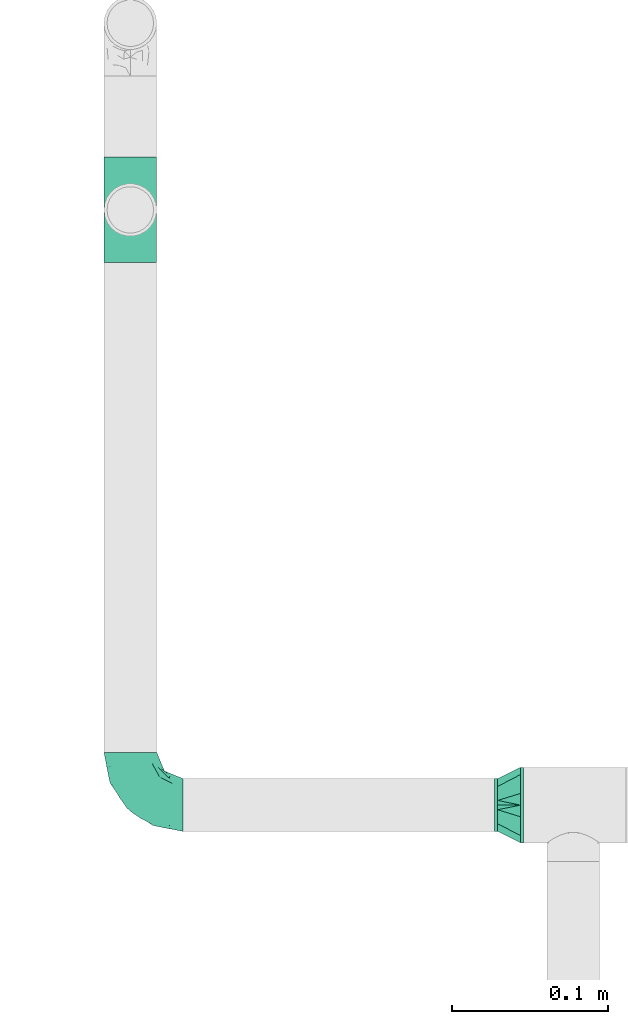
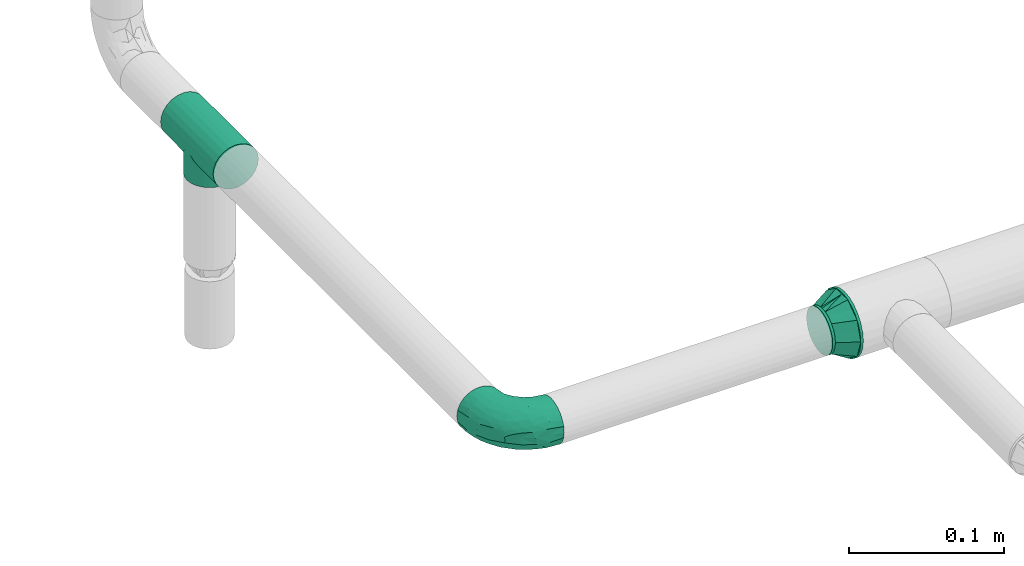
# One storey, part 19 of 51: 3 flow fittings.
"""IFC2X3 building model written with IfcOpenShell, lengths in millimetres."""

from ifc_helpers import new_model, entity, si_unit, converted_unit, derived_unit, direction, frame, origin_with_axes, place, context, subcontext, project, spatial, open_shell, surface_model, source, transform, mapped, type_object, element, save


model = new_model("IFC2X3")

# Units and contexts
model_context = context("Model", 3, precision=0.01, world=frame((0.0, 4.29681676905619e-09, 0.0)), true_north=direction((4.01073788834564e-13, 1.0)))
plan_context = context("Plan", 3, precision=0.01, world=frame((0.0, 4.29681676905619e-09, 0.0)), true_north=direction((4.01073788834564e-13, 1.0)))
body_context = subcontext(model_context, "Body", "Model", "MODEL_VIEW")
ifc_project = project(units=[converted_unit("PLANEANGLEUNIT", "DEGREE", entity("IfcPositiveLengthMeasure", 0.0174532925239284), si_unit("PLANEANGLEUNIT", "RADIAN"), dimensions=[0, 0, 0, 0, 0, 0, 0]), si_unit("AREAUNIT", "SQUARE_METRE"), si_unit("LENGTHUNIT", "METRE", prefix="MILLI"), si_unit("MASSUNIT", "GRAM", prefix="KILO"), si_unit("POWERUNIT", "WATT"), si_unit("PRESSUREUNIT", "PASCAL"), si_unit("FORCEUNIT", "NEWTON", prefix="KILO"), si_unit("ELECTRICVOLTAGEUNIT", "VOLT"), si_unit("ELECTRICCURRENTUNIT", "AMPERE"), si_unit("THERMODYNAMICTEMPERATUREUNIT", "DEGREE_CELSIUS"), si_unit("TIMEUNIT", "SECOND"), si_unit("VOLUMEUNIT", "CUBIC_METRE"), derived_unit("LINEARVELOCITYUNIT", [(si_unit("LENGTHUNIT", "METRE"), 1), (si_unit("TIMEUNIT", "SECOND"), -1)]), derived_unit("VOLUMETRICFLOWRATEUNIT", [(si_unit("VOLUMEUNIT", "CUBIC_METRE"), 1), (si_unit("TIMEUNIT", "SECOND"), -1)]), derived_unit("THERMALTRANSMITTANCEUNIT", [(si_unit("POWERUNIT", "WATT"), 1), (si_unit("THERMODYNAMICTEMPERATUREUNIT", "KELVIN"), -1), (si_unit("AREAUNIT", "SQUARE_METRE"), -1)]), derived_unit("SOUNDPRESSUREUNIT", [(si_unit("PRESSUREUNIT", "PASCAL"), 1)])], contexts=[model_context, plan_context])

# Site, building, storey
site_placement = place(None, frame((0.0, -4.29681676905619e-09, 0.0), z_axis=(0.0, 0.0, 1.0), x_axis=(1.0, 0.0, 0.0)))
site = spatial("IfcSite", under=ifc_project, at=site_placement, Name="ENGM", CompositionType="ELEMENT")
building_placement = place(site_placement, frame((0.0, 4.29681676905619e-09, 0.0), z_axis=(0.0, 0.0, 1.0), x_axis=(1.0, 0.0, 0.0)))
building = spatial("IfcBuilding", under=site, at=building_placement, Name="TH", CompositionType="ELEMENT")
storey_placement = place(building_placement, frame((0.0, 0.0, 210200.0), z_axis=(0.0, 0.0, 1.0), x_axis=(1.0, 0.0, 0.0)))
storey = spatial("IfcBuildingStorey", under=building, at=storey_placement, Name="Nivå F - 0,7 m", CompositionType="ELEMENT", Elevation=210200.0)

# Flow fittings
pipe_fitting_type_1 = type_object("IfcPipeFittingType", Name="magi_pipe_fe_elbow_short_001", PredefinedType="BEND")
shared_shape_1 = source(origin_with_axes(), body_context, "Body", "SurfaceModel", [
    surface_model("IfcShellBasedSurfaceModel", [(-33.8, 8.45, -14.63583), (-33.8, 4.37404, -16.32415), (-33.8, 11.9501, -11.9501), (-33.8, -11.9501, -11.9501), (-33.8, -14.63583, -8.45), (-33.8, -8.45, -14.63583), (-33.8, 0.0, -16.9), (-33.8, -4.37404, -16.32415), (-33.8, -4.37404, 16.32415), (-33.8, 0.0, 16.9), (-33.8, -8.45, 14.63583), (-33.8, 16.32415, -4.37404), (-33.8, 14.63583, -8.45), (-33.8, -16.32415, -4.37404), (-33.8, -16.9, 0.0), (-33.8, -16.32415, 4.37404), (-33.8, 11.9501, 11.9501), (-33.8, 14.63583, 8.45), (-33.8, 16.32415, 4.37404), (-33.8, 4.37404, 16.32415), (-33.8, 8.45, 14.63583), (-33.8, -14.63583, 8.45), (-33.8, -11.9501, 11.9501), (-33.8, 16.9, 0.0), (-11.9501, 33.8, -11.9501), (0.0, 33.8, -16.9), (-4.37404, 33.8, -16.32415), (-8.45, 33.8, -14.63583), (-14.63583, 33.8, -8.45), (-16.32415, 33.8, -4.37404), (14.63583, 33.8, -8.45), (8.45, 33.8, 14.63583), (16.32415, 33.8, -4.37404), (8.45, 33.8, -14.63583), (11.9501, 33.8, -11.9501), (4.37404, 33.8, -16.32415), (16.32415, 33.8, 4.37404), (16.9, 33.8, 0.0), (-11.9501, 33.8, 11.9501), (-16.32415, 33.8, 4.37404), (-14.63583, 33.8, 8.45), (-8.45, 33.8, 14.63583), (-4.37404, 33.8, 16.32415), (11.9501, 33.8, 11.9501), (14.63583, 33.8, 8.45), (0.0, 33.8, 16.9), (4.37404, 33.8, 16.32415), (-16.9, 33.8, 0.0), (-24.79389, -13.12945, 9.48721), (-22.19287, -9.75018, 12.59315), (-24.09897, -14.97035, 0.0), (-14.93934, -10.76256, 8.5297), (-22.46095, -14.75051, 5.27077), (14.75051, 22.46094, 5.27077), (11.9251, 13.23888, 4.33236), (13.04069, 14.39795, 0.0), (7.71387, 13.68847, 11.55891), (9.75018, 22.19287, 12.59315), (4.10169, 13.0571, 14.04018), (-24.84007, -6.39063, 15.2048), (-25.81779, -2.23879, 16.61097), (-23.66549, 2.59054, 16.87119), (-26.50418, 14.06512, 11.08152), (-24.21253, 17.66365, 7.72657), (-29.58514, 15.86957, 7.00283), (-6.17382, -7.5455, 0.0), (-13.23888, -11.9251, 4.33236), (-14.39795, -13.04069, 0.0), (-17.81434, 18.87373, 11.97104), (-6.30846, 29.15138, 15.82987), (-2.31622, 25.28002, 16.85849), (-29.23923, 10.23435, 13.77053), (-1.45439, -2.85688, 7.61475), (-0.28326, 0.34872, 10.09509), (-5.74484, -4.04709, 10.4122), (-4.41137, 11.31918, 16.59407), (-8.39727, 3.10034, 15.7812), (-1.72649, 9.1306, 15.53089), (-17.39909, 24.75344, 7.64977), (-26.19233, 20.0512, 0.0), (-28.14518, 17.29657, 4.25857), (-26.05147, 6.6281, 15.96447), (-5.87354, 16.61944, 16.86968), (-12.51807, 12.51807, 16.48937), (-10.06312, 7.38516, 16.81295), (-3.01882, 3.01882, 13.81718), (-13.0571, -4.10169, 14.04018), (-16.82553, -0.15166, 16.38038), (10.76256, 14.93934, 8.5297), (13.12945, 24.79389, 9.48721), (6.39063, 24.84007, 15.2048), (2.23879, 25.81779, 16.61097), (-13.68847, -7.71387, 11.55891), (14.97035, 24.09897, 0.0), (-7.30894, 22.89991, 16.09489), (-10.67958, 26.17414, 14.008), (-12.78295, 18.26924, 15.06066), (-13.88562, 22.45231, 12.93244), (-18.04944, 15.16501, 14.04434), (-23.11658, 20.08178, 4.02986), (-21.84989, 21.84989, 0.0), (-18.55817, 25.48277, 3.93065), (-13.95142, 26.94732, 11.03289), (-18.57098, 7.23906, 16.59756), (-16.58335, 4.14122, 16.89279), (-17.96666, 11.46709, 15.63151), (-9.84453, 17.54304, 16.18938), (0.15166, 16.82553, 16.38038), (-23.27207, 11.47201, 14.23154), (3.84842, 5.86994, 10.70473), (-8.0212, -7.54413, 7.93275), (1.00345, -2.19508, 4.57414), (5.13203, 3.01004, 5.90201), (5.24161, 1.7543, 2.53265), (8.70457, 7.04947, 3.99182), (-20.0512, 26.19233, 0.0), (8.4852, 8.76699, 7.09296), (-4.55488, -6.72064, 4.90681), (2.05031, -2.05031, 0.0), (7.5455, 6.17382, 0.0), (-26.75399, 2.1369, -16.845), (-14.61995, 24.73803, -11.27736), (-28.45274, -13.45335, -9.81895), (-26.00469, 6.63555, -15.96645), (-23.06726, 20.04573, -4.26202), (-13.80647, -4.26506, -14.17873), (-14.67501, -0.21081, -16.07388), (-6.7902, -0.2828, -13.8478), (-24.53586, 11.08096, -14.13417), (-26.72048, 14.00837, -11.05776), (10.0967, 24.44989, -12.75976), (5.83237, 21.40218, -15.03047), (6.66249, 28.54238, -15.38093), (-20.38182, 15.48705, -12.74596), (12.53268, 21.23441, -9.15363), (12.54494, 15.67504, -5.54878), (9.7522, 12.89279, -8.66343), (-15.65186, 19.64213, -13.01327), (-12.03528, 20.66498, -14.67665), (-15.61907, 15.61906, -14.83879), (-25.56551, -15.26206, 0.0), (-24.65452, -15.12934, -5.50955), (13.45335, 28.45274, -9.81895), (15.12934, 24.65452, -5.50955), (-7.35442, -8.31014, -5.65563), (-15.67504, -12.54494, -5.54878), (-24.44989, -10.0967, -12.75976), (0.16522, 0.41303, -9.71728), (-5.70658, -5.33066, -8.89288), (-5.13869, -2.37198, -11.53565), (-21.23441, -12.53268, -9.15363), (0.71146, 7.93863, -14.09382), (0.21081, 14.67501, -16.07388), (3.49291, 14.42772, -14.76381), (-24.89911, -2.13088, -16.591), (-28.54238, -6.66249, -15.38093), (-18.44386, -7.71663, -13.26957), (2.13088, 24.89911, -16.591), (-28.64342, 17.44413, -2.89318), (1.70017, -1.28722, -5.09504), (-16.57067, 26.81947, -7.36596), (-17.69055, 27.4263, -3.76405), (-12.89279, -9.7522, -8.66343), (-5.96611, 5.96611, -15.95814), (-20.53709, 20.09345, -8.28985), (-2.1369, 26.75399, -16.845), (-6.89872, 24.58781, -16.02578), (-10.60739, 26.53157, -13.98044), (-21.40218, -5.83237, -15.03047), (2.93192, 5.89627, -11.55917), (6.89393, 12.61842, -11.82233), (5.58056, 5.95325, -8.79455), (-3.99512, 18.61798, -16.89635), (8.31014, 7.35442, -5.65563), (-9.1383, 9.86148, -16.89041), (-9.99983, 16.02119, -16.39699), (-16.68576, 9.78031, -16.34199), (-27.01915, 16.61158, -7.12979), (15.26206, 25.56551, 0.0), (-18.61798, 3.99512, -16.89635), (-19.37495, 27.82495, 0.0), (-12.61842, -6.89393, -11.82233), (-18.84705, 19.14018, -10.96545)], [open_shell([[[0, 1, 2]], [[3, 4, 5]], [[6, 7, 5]], [[8, 9, 10]], [[1, 6, 2]], [[11, 12, 2]], [[4, 2, 6]], [[2, 13, 10]], [[5, 4, 6]], [[2, 4, 13]], [[14, 15, 13]], [[11, 2, 16]], [[11, 17, 18]], [[11, 16, 17]], [[19, 20, 16]], [[16, 2, 10]], [[19, 16, 10]], [[21, 22, 15]], [[22, 13, 15]], [[22, 10, 13]], [[10, 9, 19]], [[11, 18, 23]], [[24, 25, 26]], [[24, 26, 27]], [[24, 28, 29]], [[25, 24, 30]], [[31, 32, 24]], [[33, 30, 34]], [[33, 35, 25]], [[25, 30, 33]], [[32, 30, 24]], [[32, 36, 37]], [[38, 24, 29]], [[39, 40, 29]], [[40, 38, 29]], [[38, 41, 42]], [[38, 31, 24]], [[31, 38, 42]], [[36, 43, 44]], [[36, 32, 43]], [[31, 45, 46]], [[32, 31, 43]], [[42, 45, 31]], [[39, 29, 47]], [[22, 48, 49]], [[15, 14, 50]], [[51, 48, 52]], [[53, 54, 55]], [[48, 22, 21]], [[15, 52, 21]], [[56, 57, 58]], [[49, 10, 22]], [[49, 59, 10]], [[9, 60, 61]], [[62, 63, 64]], [[65, 66, 67]], [[57, 43, 31]], [[62, 68, 63]], [[42, 69, 70]], [[20, 71, 16]], [[8, 60, 9]], [[72, 73, 74]], [[75, 76, 77]], [[16, 62, 17]], [[40, 39, 78]], [[79, 23, 80]], [[64, 18, 17]], [[9, 61, 19]], [[19, 81, 20]], [[82, 83, 84]], [[74, 85, 86]], [[59, 86, 87]], [[88, 89, 57]], [[90, 31, 46]], [[44, 53, 36]], [[46, 45, 91]], [[54, 53, 88]], [[44, 89, 53]], [[92, 86, 49]], [[89, 44, 43]], [[10, 59, 8]], [[53, 55, 93]], [[93, 36, 53]], [[66, 52, 67]], [[94, 82, 70]], [[95, 96, 94]], [[97, 98, 96]], [[79, 99, 100]], [[41, 38, 95]], [[101, 100, 99]], [[68, 78, 63]], [[42, 41, 69]], [[23, 18, 80]], [[95, 94, 69]], [[78, 101, 99]], [[38, 102, 95]], [[70, 45, 42]], [[97, 95, 102]], [[15, 50, 52]], [[90, 57, 31]], [[57, 90, 58]], [[81, 19, 61]], [[103, 104, 84]], [[105, 81, 103]], [[38, 40, 102]], [[106, 96, 83]], [[94, 106, 82]], [[91, 70, 107]], [[71, 62, 16]], [[62, 108, 98]], [[86, 59, 49]], [[67, 52, 50]], [[60, 59, 87]], [[92, 49, 51]], [[86, 85, 76]], [[91, 90, 46]], [[37, 36, 93]], [[107, 77, 58]], [[107, 58, 90]], [[58, 85, 109]], [[110, 74, 92]], [[72, 74, 110]], [[66, 51, 52]], [[72, 111, 112]], [[113, 114, 112]], [[56, 88, 57]], [[52, 48, 21]], [[49, 48, 51]], [[57, 89, 43]], [[53, 89, 88]], [[103, 81, 61]], [[71, 81, 108]], [[18, 64, 80]], [[63, 78, 99]], [[47, 115, 101]], [[101, 115, 100]], [[40, 78, 102]], [[68, 102, 78]], [[97, 96, 95]], [[105, 98, 108]], [[103, 84, 83]], [[107, 70, 82]], [[76, 84, 87]], [[82, 84, 75]], [[70, 91, 45]], [[90, 91, 107]], [[59, 60, 8]], [[61, 60, 87]], [[73, 85, 74]], [[109, 112, 116]], [[103, 61, 104]], [[105, 103, 83]], [[96, 105, 83]], [[81, 105, 108]], [[96, 98, 105]], [[62, 98, 68]], [[61, 87, 104]], [[87, 84, 104]], [[86, 76, 87]], [[77, 76, 85]], [[58, 77, 85]], [[75, 77, 107]], [[82, 75, 107]], [[76, 75, 84]], [[81, 71, 20]], [[62, 71, 108]], [[95, 69, 41]], [[70, 69, 94]], [[62, 64, 17]], [[80, 63, 99]], [[63, 80, 64]], [[80, 99, 79]], [[66, 65, 117]], [[110, 66, 117]], [[112, 114, 116]], [[118, 117, 65]], [[110, 92, 51]], [[112, 111, 113]], [[119, 55, 54]], [[74, 86, 92]], [[58, 109, 56]], [[116, 56, 109]], [[66, 110, 51]], [[72, 110, 117]], [[111, 72, 117]], [[73, 112, 109]], [[117, 118, 111]], [[113, 111, 118]], [[118, 119, 113]], [[114, 119, 54]], [[119, 114, 113]], [[116, 54, 88]], [[54, 116, 114]], [[116, 88, 56]], [[112, 73, 72]], [[85, 73, 109]], [[78, 39, 101]], [[47, 101, 39]], [[102, 68, 97]], [[97, 68, 98]], [[82, 106, 83]], [[94, 96, 106]], [[1, 120, 6]], [[28, 24, 121]], [[3, 122, 4]], [[0, 123, 1]], [[100, 124, 79]], [[125, 126, 127]], [[128, 2, 129]], [[130, 131, 132]], [[128, 129, 133]], [[134, 135, 136]], [[137, 138, 139]], [[128, 0, 2]], [[67, 140, 141]], [[134, 142, 143]], [[141, 13, 4]], [[144, 65, 145]], [[146, 3, 5]], [[147, 148, 149]], [[145, 141, 150]], [[151, 152, 153]], [[154, 7, 6]], [[5, 155, 146]], [[150, 146, 156]], [[155, 5, 7]], [[143, 135, 134]], [[35, 157, 25]], [[23, 79, 158]], [[148, 159, 144]], [[160, 161, 29]], [[145, 162, 144]], [[163, 152, 151]], [[29, 28, 160]], [[121, 164, 160]], [[33, 34, 130]], [[25, 165, 26]], [[26, 165, 166]], [[142, 34, 30]], [[24, 27, 167]], [[124, 161, 164]], [[157, 35, 132]], [[155, 154, 168]], [[123, 0, 128]], [[169, 170, 171]], [[172, 157, 152]], [[26, 166, 27]], [[132, 35, 33]], [[142, 130, 34]], [[168, 154, 126]], [[136, 135, 173]], [[133, 137, 139]], [[2, 12, 129]], [[170, 131, 130]], [[30, 32, 143]], [[172, 174, 175]], [[176, 123, 128]], [[158, 177, 11]], [[135, 55, 119]], [[167, 27, 166]], [[175, 166, 172]], [[137, 167, 138]], [[122, 141, 4]], [[140, 14, 13]], [[32, 37, 178]], [[170, 130, 134]], [[152, 157, 131]], [[165, 157, 172]], [[153, 170, 151]], [[152, 163, 174]], [[168, 125, 156]], [[122, 146, 150]], [[120, 154, 6]], [[179, 174, 126]], [[179, 126, 154]], [[126, 163, 127]], [[162, 145, 150]], [[140, 13, 141]], [[32, 178, 143]], [[55, 143, 178]], [[177, 129, 12]], [[128, 133, 139]], [[176, 128, 139]], [[120, 123, 179]], [[121, 160, 28]], [[161, 100, 180]], [[166, 175, 138]], [[121, 24, 167]], [[161, 47, 29]], [[79, 124, 158]], [[124, 164, 177]], [[161, 124, 100]], [[136, 171, 170]], [[127, 163, 151]], [[147, 171, 159]], [[148, 144, 162]], [[127, 151, 169]], [[127, 181, 125]], [[129, 177, 164]], [[12, 11, 177]], [[159, 65, 144]], [[67, 141, 145]], [[143, 55, 135]], [[135, 119, 173]], [[123, 120, 1]], [[154, 120, 179]], [[157, 165, 25]], [[166, 165, 172]], [[172, 152, 174]], [[176, 139, 175]], [[126, 174, 163]], [[176, 174, 179]], [[174, 176, 175]], [[123, 176, 179]], [[150, 181, 162]], [[127, 149, 181]], [[181, 148, 162]], [[159, 148, 147]], [[171, 136, 173]], [[170, 134, 136]], [[159, 171, 173]], [[171, 147, 169]], [[169, 147, 149]], [[151, 170, 169]], [[164, 182, 129]], [[182, 121, 137]], [[181, 149, 148]], [[169, 149, 127]], [[182, 137, 133]], [[167, 137, 121]], [[166, 138, 167]], [[175, 139, 138]], [[129, 182, 133]], [[121, 182, 164]], [[161, 160, 164]], [[47, 161, 180]], [[177, 158, 124]], [[23, 158, 11]], [[130, 132, 33]], [[157, 132, 131]], [[143, 142, 30]], [[130, 142, 134]], [[154, 155, 7]], [[146, 155, 168]], [[146, 122, 3]], [[141, 122, 150]], [[152, 131, 153]], [[159, 119, 118]], [[67, 145, 65]], [[170, 153, 131]], [[119, 159, 173]], [[159, 118, 65]], [[156, 125, 181]], [[126, 125, 168]], [[150, 156, 181]], [[168, 156, 146]]])]),
])
flow_fitting_1_placement = place(storey_placement, frame((900216.02472, 481023.05237, 2700.0), z_axis=(0.0, 0.0, 1.0), x_axis=(0.0, -1.0, 0.0)))
element("IfcFlowFitting", 1, at=flow_fitting_1_placement, inside=storey, type_object=pipe_fitting_type_1, Name="magi_pipe_fe_elbow_short_001", context=body_context, shape_type="MappedRepresentation", body=[
    mapped(shared_shape_1, transform((0.0, 0.0, 0.0), scale=1.0)),
])
pipe_fitting_type_2 = type_object("IfcPipeFittingType", Name="magi_pipe_fe_reducer_centric_short_NOR", PredefinedType="TRANSITION")
shared_shape_2 = source(origin_with_axes(), body_context, "Body", "SurfaceModel", [
    surface_model("IfcShellBasedSurfaceModel", [(16.6, 4.37404, -16.32415), (16.6, 8.45, -14.63583), (16.6, 11.9501, -11.9501), (16.6, 0.0, -16.9), (16.6, 16.32415, -4.37404), (16.6, 16.32415, 4.37404), (16.6, 14.63583, -8.45), (16.6, -8.45, 14.63583), (16.6, -8.45, -14.63583), (16.6, -4.37404, -16.32415), (16.6, -11.9501, -11.9501), (16.6, -16.32415, -4.37404), (16.6, -14.63583, -8.45), (16.6, -16.32415, 4.37404), (16.6, 16.9, 0.0), (16.6, 14.63583, 8.45), (16.6, 11.9501, 11.9501), (16.6, 4.37404, 16.32415), (16.6, 8.45, 14.63583), (16.6, 0.0, 16.9), (16.6, -14.63583, 8.45), (16.6, -16.9, 0.0), (16.6, -11.9501, 11.9501), (16.6, -4.37404, 16.32415), (14.6, 11.9501, 11.9501), (14.6, 0.0, 16.9), (14.6, 4.37404, 16.32415), (14.6, 8.45, 14.63583), (14.6, 14.63583, 8.45), (14.6, 16.32415, 4.37404), (14.6, -16.32415, 4.37404), (14.6, -8.45, -14.63583), (14.6, -8.45, 14.63583), (14.6, -14.63583, 8.45), (14.6, -11.9501, 11.9501), (14.6, -4.37404, 16.32415), (14.6, -16.32415, -4.37404), (14.6, -16.9, 0.0), (14.6, 16.32415, -4.37404), (14.6, 11.9501, -11.9501), (14.6, 14.63583, -8.45), (14.6, 8.45, -14.63583), (14.6, 4.37404, -16.32415), (14.6, 0.0, -16.9), (14.6, -11.9501, -11.9501), (14.6, -14.63583, -8.45), (14.6, -4.37404, -16.32415), (14.6, 16.9, 0.0), (-2.0, 0.0, 24.2), (-2.0, 6.26342, 23.37541), (-2.0, 12.1, 20.95781), (-2.0, 17.11198, 17.11198), (-2.0, 24.2, 0.0), (-2.0, 20.95781, 12.1), (-2.0, -23.37541, 6.26342), (-2.0, -17.11198, -17.11198), (-2.0, -6.26342, 23.37541), (-2.0, -17.11198, 17.11198), (-2.0, -12.1, 20.95781), (-2.0, -20.95781, 12.1), (-2.0, -24.2, 0.0), (-2.0, 23.37541, 6.26342), (-2.0, 23.37541, -6.26342), (-2.0, 6.26342, -23.37541), (-2.0, 17.11198, -17.11198), (-2.0, 20.95781, -12.1), (-2.0, 12.1, -20.95781), (-2.0, -23.37541, -6.26342), (-2.0, -20.95781, -12.1), (-2.0, -6.26342, -23.37541), (-2.0, -12.1, -20.95781), (-2.0, 0.0, -24.2), (0.0, 24.2, 0.0), (0.0, 6.26342, -23.37541), (0.0, 12.1, -20.95781), (0.0, 23.37541, -6.26342), (0.0, 17.11198, -17.11198), (0.0, 20.95781, -12.1), (0.0, -24.2, 0.0), (0.0, -12.1, -20.95781), (0.0, -6.26342, -23.37541), (0.0, 0.0, -24.2), (0.0, -17.11198, -17.11198), (0.0, -23.37541, -6.26342), (0.0, -20.95781, -12.1), (0.0, 20.95781, 12.1), (0.0, 17.11198, 17.11198), (0.0, 12.1, 20.95781), (0.0, 6.26342, 23.37541), (0.0, 0.0, 24.2), (0.0, -23.37541, 6.26342), (0.0, -17.11198, 17.11198), (0.0, -20.95781, 12.1), (0.0, -6.26342, 23.37541), (0.0, -12.1, 20.95781), (0.0, 23.37541, 6.26342), (0.0, 7.47821, 23.01557), (0.0, 19.57821, 14.2244), (0.0, -7.47821, 23.01557), (0.0, -19.57821, 14.2244), (0.0, 7.47821, -23.01557), (0.0, 19.57821, -14.2244), (0.0, -7.47821, -23.01557), (0.0, -19.57821, -14.2244), (14.6, -13.18758, -8.96258), (14.6, 14.42505, -5.97505), (0.0, 21.8891, -7.1122), (0.0, 13.52821, -18.61999), (0.0, 16.55321, -16.42219), (14.6, -14.42505, -5.97505), (0.0, -21.8891, -7.1122), (0.0, -20.73366, -10.6683), (14.6, 5.97505, -14.42505), (0.0, 0.0, -23.01557), (14.6, -2.98753, -15.66253), (14.6, 2.98753, -15.66253), (14.6, 8.96258, -13.18758), (14.6, 15.66253, -2.98753), (14.6, -15.66253, -2.98753), (0.0, -13.52821, -18.61999), (14.6, -5.97505, -14.42505), (14.6, -8.96258, -13.18758), (14.6, 13.18758, -8.96258), (14.6, 13.18758, 8.96258), (14.6, -14.42505, 5.97505), (0.0, -21.8891, 7.1122), (0.0, -13.52821, 18.61999), (0.0, -16.55321, 16.42219), (14.6, 14.42505, 5.97505), (0.0, 21.8891, 7.1122), (0.0, 20.73366, 10.6683), (14.6, -5.97505, 14.42505), (0.0, 0.0, 23.01557), (14.6, 2.98753, 15.66253), (14.6, -2.98753, 15.66253), (14.6, -8.96258, 13.18758), (14.6, -15.66253, 2.98753), (14.6, 15.66253, 2.98753), (0.0, 13.52821, 18.61999), (14.6, 5.97505, 14.42505), (14.6, 8.96258, 13.18758), (14.6, -13.18758, 8.96258)], [open_shell([[[0, 1, 2]], [[3, 0, 2]], [[2, 4, 5]], [[4, 2, 6]], [[2, 7, 8]], [[3, 8, 9]], [[3, 2, 8]], [[10, 11, 12]], [[11, 10, 8]], [[8, 13, 11]], [[5, 4, 14]], [[5, 15, 16]], [[5, 16, 17]], [[5, 17, 7]], [[17, 16, 18]], [[7, 17, 19]], [[13, 7, 20]], [[21, 11, 13]], [[20, 7, 22]], [[7, 13, 8]], [[19, 23, 7]], [[2, 5, 7]], [[24, 25, 26]], [[24, 26, 27]], [[24, 28, 29]], [[24, 29, 25]], [[30, 25, 31]], [[32, 33, 34]], [[33, 32, 35]], [[25, 33, 35]], [[25, 30, 33]], [[30, 36, 37]], [[31, 25, 29]], [[29, 38, 39]], [[39, 38, 40]], [[39, 41, 42]], [[31, 29, 39]], [[42, 43, 39]], [[36, 44, 45]], [[44, 36, 31]], [[31, 43, 46]], [[36, 30, 31]], [[39, 43, 31]], [[38, 29, 47]], [[36, 11, 37]], [[45, 12, 36]], [[8, 44, 31]], [[45, 44, 10]], [[9, 31, 46]], [[36, 12, 11]], [[11, 21, 37]], [[9, 8, 31]], [[10, 44, 8]], [[10, 12, 45]], [[3, 9, 46]], [[46, 43, 3]], [[42, 0, 43]], [[41, 1, 42]], [[6, 39, 40]], [[41, 39, 2]], [[4, 40, 38]], [[41, 2, 1]], [[1, 0, 42]], [[14, 4, 38]], [[6, 40, 4]], [[6, 2, 39]], [[47, 14, 38]], [[43, 0, 3]], [[29, 5, 47]], [[28, 15, 29]], [[18, 24, 27]], [[28, 24, 16]], [[17, 27, 26]], [[29, 15, 5]], [[5, 14, 47]], [[17, 18, 27]], [[16, 24, 18]], [[16, 15, 28]], [[19, 17, 26]], [[26, 25, 19]], [[35, 23, 25]], [[32, 7, 35]], [[20, 34, 33]], [[32, 34, 22]], [[13, 33, 30]], [[32, 22, 7]], [[7, 23, 35]], [[21, 13, 30]], [[20, 33, 13]], [[20, 22, 34]], [[37, 21, 30]], [[25, 23, 19]], [[48, 49, 50]], [[48, 50, 51]], [[52, 51, 53]], [[54, 48, 55]], [[48, 51, 55]], [[56, 57, 58]], [[56, 48, 57]], [[57, 54, 59]], [[48, 54, 57]], [[54, 55, 60]], [[52, 53, 61]], [[51, 62, 63]], [[64, 62, 65]], [[66, 63, 62]], [[66, 62, 64]], [[63, 55, 51]], [[67, 55, 68]], [[60, 55, 67]], [[63, 69, 70]], [[70, 55, 63]], [[69, 63, 71]], [[62, 51, 52]], [[72, 73, 74]], [[75, 74, 76]], [[75, 72, 74]], [[75, 76, 77]], [[73, 78, 79]], [[73, 80, 81]], [[73, 79, 80]], [[82, 83, 84]], [[82, 79, 78]], [[82, 78, 83]], [[73, 72, 85]], [[85, 86, 73]], [[73, 86, 78]], [[87, 88, 89]], [[87, 89, 86]], [[78, 86, 89]], [[90, 91, 92]], [[93, 90, 78]], [[91, 93, 94]], [[93, 91, 90]], [[78, 89, 93]], [[72, 95, 85]], [[67, 83, 60]], [[68, 84, 67]], [[79, 55, 70]], [[68, 55, 82]], [[80, 70, 69]], [[67, 84, 83]], [[83, 78, 60]], [[80, 79, 70]], [[82, 55, 79]], [[82, 84, 68]], [[81, 80, 69]], [[69, 71, 81]], [[63, 73, 71]], [[66, 74, 63]], [[77, 64, 65]], [[66, 64, 76]], [[75, 65, 62]], [[66, 76, 74]], [[74, 73, 63]], [[72, 75, 62]], [[77, 65, 75]], [[77, 76, 64]], [[52, 72, 62]], [[71, 73, 81]], [[61, 95, 52]], [[53, 85, 61]], [[87, 51, 50]], [[53, 51, 86]], [[88, 50, 49]], [[61, 85, 95]], [[95, 72, 52]], [[88, 87, 50]], [[86, 51, 87]], [[86, 85, 53]], [[89, 88, 49]], [[49, 48, 89]], [[56, 93, 48]], [[58, 94, 56]], [[92, 57, 59]], [[58, 57, 91]], [[90, 59, 54]], [[58, 91, 94]], [[94, 93, 56]], [[78, 90, 54]], [[92, 59, 90]], [[92, 91, 57]], [[60, 78, 54]], [[48, 93, 89]], [[25, 34, 47]], [[47, 24, 25]], [[34, 44, 47]], [[43, 47, 44]], [[39, 47, 43]], [[44, 34, 37]], [[96, 97, 98]], [[98, 78, 99]], [[78, 98, 97]], [[97, 100, 78]], [[101, 100, 97]], [[78, 102, 103]], [[78, 100, 102]], [[97, 72, 101]], [[103, 44, 104]], [[105, 101, 106]], [[39, 107, 108]], [[109, 110, 111]], [[100, 107, 112]], [[113, 114, 102]], [[113, 115, 43]], [[116, 112, 107]], [[72, 117, 106]], [[100, 115, 113]], [[78, 118, 37]], [[44, 103, 119]], [[119, 120, 121]], [[78, 110, 118]], [[117, 72, 47]], [[101, 105, 122]], [[114, 120, 102]], [[114, 113, 43]], [[100, 112, 115]], [[39, 108, 101]], [[109, 118, 110]], [[103, 104, 111]], [[104, 109, 111]], [[39, 101, 122]], [[120, 119, 102]], [[121, 44, 119]], [[117, 105, 106]], [[107, 39, 116]], [[97, 24, 123]], [[124, 99, 125]], [[34, 126, 127]], [[128, 129, 130]], [[98, 126, 131]], [[132, 133, 96]], [[132, 134, 25]], [[135, 131, 126]], [[78, 136, 125]], [[98, 134, 132]], [[72, 137, 47]], [[24, 97, 138]], [[138, 139, 140]], [[72, 129, 137]], [[136, 78, 37]], [[99, 124, 141]], [[133, 139, 96]], [[133, 132, 25]], [[98, 131, 134]], [[34, 127, 99]], [[128, 137, 129]], [[97, 123, 130]], [[123, 128, 130]], [[34, 99, 141]], [[139, 138, 96]], [[140, 24, 138]], [[136, 124, 125]], [[126, 34, 135]]])]),
])
flow_fitting_2_placement = place(storey_placement, frame((900466.02472, 481023.05237, 2700.0), z_axis=(0.0, 0.0, 1.0), x_axis=(-1.0, 0.0, 0.0)))
element("IfcFlowFitting", 2, at=flow_fitting_2_placement, inside=storey, type_object=pipe_fitting_type_2, Name="magi_pipe_fe_reducer_centric_short_NOR", context=body_context, shape_type="MappedRepresentation", body=[
    mapped(shared_shape_2, transform((0.0, 0.0, 0.0), scale=1.0)),
])
pipe_fitting_type_3 = type_object("IfcPipeFittingType", Name="magi_pipe_fe_tee_centric_90_NOR", PredefinedType="JUNCTION")
shared_shape_3 = source(origin_with_axes(), body_context, "Body", "SurfaceModel", [
    surface_model("IfcShellBasedSurfaceModel", [(-33.8, 4.37404, -16.32415), (-33.8, 0.0, -16.9), (-33.8, 16.32415, -4.37404), (-33.8, 8.45, -14.63583), (-33.8, 11.9501, -11.9501), (-33.8, 14.63583, -8.45), (-33.8, -16.9, 0.0), (-33.8, -11.9501, -11.9501), (-33.8, -14.63583, -8.45), (-33.8, -8.45, -14.63583), (-33.8, -4.37404, -16.32415), (-33.8, -16.32415, -4.37404), (-33.8, 14.63583, 8.45), (-33.8, 16.32415, 4.37404), (-33.8, -8.45, 14.63583), (-33.8, 8.45, 14.63583), (-33.8, 11.9501, 11.9501), (-33.8, 4.37404, 16.32415), (-33.8, 0.0, 16.9), (-33.8, -11.9501, 11.9501), (-33.8, -14.63583, 8.45), (-33.8, -16.32415, 4.37404), (-33.8, -4.37404, 16.32415), (-33.8, 16.9, 0.0), (33.8, 4.37404, -16.32415), (33.8, -16.9, 0.0), (33.8, 0.0, -16.9), (33.8, 14.63583, -8.45), (33.8, 8.45, -14.63583), (33.8, 16.32415, -4.37404), (33.8, 11.9501, -11.9501), (33.8, -16.32415, 4.37404), (33.8, -8.45, -14.63583), (33.8, -4.37404, -16.32415), (33.8, -11.9501, -11.9501), (33.8, -14.63583, -8.45), (33.8, -16.32415, -4.37404), (33.8, 16.32415, 4.37404), (33.8, 8.45, 14.63583), (33.8, 14.63583, 8.45), (33.8, 11.9501, 11.9501), (33.8, -8.45, 14.63583), (33.8, 4.37404, 16.32415), (33.8, -14.63583, 8.45), (33.8, -11.9501, 11.9501), (33.8, 0.0, 16.9), (33.8, -4.37404, 16.32415), (33.8, 16.9, 0.0), (16.28698, -16.28698, 4.51047), (16.9, -16.9, 0.0), (14.62704, -14.62704, 8.4652), (9.47213, -9.47213, 13.99602), (12.26343, -12.26343, 11.62834), (-16.9, -16.9, 0.0), (-16.28698, -16.28698, 4.51047), (-14.62704, -14.62704, 8.4652), (-12.26343, -12.26343, 11.62834), (-9.47213, -9.47213, 13.99602), (-6.42894, -6.42894, 15.62942), (6.42894, -6.42894, 15.62942), (3.24522, -3.24522, 16.58549), (0.0, 0.0, 16.9), (-3.24522, -3.24522, 16.58549), (3.24522, -3.24522, -16.58549), (0.0, 0.0, -16.9), (-3.24522, -3.24522, -16.58549), (-6.42894, -6.42894, -15.62942), (6.42894, -6.42894, -15.62942), (9.47213, -9.47213, -13.99602), (12.26343, -12.26343, -11.62834), (14.62704, -14.62704, -8.4652), (16.28698, -16.28698, -4.51047), (-9.47213, -9.47213, -13.99602), (-12.26343, -12.26343, -11.62834), (-16.28698, -16.28698, -4.51047), (-14.62704, -14.62704, -8.4652), (4.37404, -25.35, -16.32415), (-16.9, -25.35, 0.0), (0.0, -25.35, -16.9), (14.63583, -25.35, -8.45), (8.45, -25.35, -14.63583), (16.32415, -25.35, -4.37404), (11.9501, -25.35, -11.9501), (-11.9501, -25.35, -11.9501), (-8.45, -25.35, -14.63583), (-4.37404, -25.35, -16.32415), (-14.63583, -25.35, -8.45), (-16.32415, -25.35, -4.37404), (16.9, -25.35, 0.0), (8.45, -25.35, 14.63583), (16.32415, -25.35, 4.37404), (14.63583, -25.35, 8.45), (-8.45, -25.35, 14.63583), (11.9501, -25.35, 11.9501), (4.37404, -25.35, 16.32415), (-16.32415, -25.35, 4.37404), (-11.9501, -25.35, 11.9501), (-14.63583, -25.35, 8.45), (0.0, -25.35, 16.9), (-4.37404, -25.35, 16.32415)], [open_shell([[[0, 1, 2]], [[3, 0, 4]], [[0, 2, 5]], [[4, 0, 5]], [[6, 2, 1]], [[7, 8, 9]], [[1, 10, 9]], [[11, 6, 8]], [[1, 9, 8]], [[1, 8, 6]], [[6, 12, 2]], [[12, 13, 2]], [[14, 12, 6]], [[12, 14, 15]], [[16, 12, 15]], [[17, 15, 18]], [[19, 14, 20]], [[21, 20, 14]], [[22, 18, 14]], [[14, 6, 21]], [[14, 18, 15]], [[23, 2, 13]], [[24, 25, 26]], [[27, 24, 28]], [[27, 29, 24]], [[27, 28, 30]], [[31, 25, 24]], [[26, 32, 33]], [[26, 34, 32]], [[35, 25, 36]], [[35, 34, 26]], [[25, 35, 26]], [[24, 29, 31]], [[29, 37, 38]], [[38, 37, 39]], [[38, 31, 29]], [[38, 39, 40]], [[41, 38, 42]], [[43, 41, 44]], [[41, 43, 31]], [[41, 45, 46]], [[41, 31, 38]], [[42, 45, 41]], [[29, 47, 37]], [[31, 43, 48]], [[25, 31, 49]], [[49, 31, 48]], [[43, 50, 48]], [[44, 41, 51]], [[50, 43, 52]], [[51, 52, 44]], [[52, 43, 44]], [[53, 54, 21]], [[53, 21, 6]], [[21, 54, 20]], [[54, 55, 20]], [[56, 57, 19]], [[19, 20, 56]], [[19, 57, 14]], [[56, 20, 55]], [[14, 57, 58]], [[51, 41, 59]], [[60, 45, 61]], [[59, 46, 60]], [[46, 59, 41]], [[60, 46, 45]], [[61, 45, 42]], [[39, 37, 13]], [[16, 38, 40]], [[12, 40, 39]], [[42, 38, 15]], [[23, 37, 47]], [[62, 61, 18]], [[62, 22, 58]], [[22, 62, 18]], [[58, 22, 14]], [[61, 17, 18]], [[42, 17, 61]], [[15, 17, 42]], [[15, 38, 16]], [[12, 16, 40]], [[13, 12, 39]], [[37, 23, 13]], [[5, 27, 30]], [[23, 47, 29]], [[30, 28, 3]], [[27, 2, 29]], [[26, 33, 63]], [[26, 64, 24]], [[64, 26, 63]], [[28, 24, 0]], [[64, 0, 24]], [[4, 30, 3]], [[2, 27, 5]], [[5, 30, 4]], [[2, 23, 29]], [[65, 66, 10]], [[1, 0, 64]], [[1, 65, 10]], [[66, 9, 10]], [[0, 3, 28]], [[1, 64, 65]], [[63, 33, 67]], [[32, 34, 68]], [[69, 68, 34]], [[35, 70, 69]], [[69, 34, 35]], [[32, 68, 67]], [[36, 25, 49]], [[36, 71, 35]], [[71, 36, 49]], [[35, 71, 70]], [[72, 9, 66]], [[72, 7, 9]], [[7, 72, 73]], [[7, 73, 8]], [[74, 53, 11]], [[75, 74, 8]], [[74, 11, 8]], [[11, 53, 6]], [[75, 8, 73]], [[32, 67, 33]], [[76, 77, 78]], [[79, 76, 80]], [[79, 81, 76]], [[79, 80, 82]], [[77, 76, 81]], [[78, 83, 84]], [[84, 85, 78]], [[86, 77, 87]], [[83, 78, 86]], [[77, 86, 78]], [[81, 88, 77]], [[89, 88, 90]], [[89, 90, 91]], [[92, 77, 89]], [[89, 91, 93]], [[92, 89, 94]], [[95, 96, 97]], [[96, 95, 92]], [[92, 98, 99]], [[95, 77, 92]], [[94, 98, 92]], [[89, 77, 88]], [[77, 95, 53]], [[54, 53, 95]], [[97, 96, 56]], [[96, 92, 57]], [[95, 97, 54]], [[58, 92, 99]], [[55, 54, 97]], [[56, 55, 97]], [[58, 57, 92]], [[98, 61, 62]], [[58, 99, 62]], [[56, 96, 57]], [[62, 99, 98]], [[94, 60, 98]], [[89, 59, 94]], [[91, 90, 48]], [[52, 93, 91]], [[93, 51, 89]], [[49, 90, 88]], [[59, 60, 94]], [[51, 59, 89]], [[49, 48, 90]], [[50, 52, 91]], [[48, 50, 91]], [[51, 93, 52]], [[98, 60, 61]], [[88, 81, 49]], [[71, 49, 81]], [[79, 82, 69]], [[82, 80, 68]], [[81, 79, 71]], [[67, 80, 76]], [[70, 71, 79]], [[69, 70, 79]], [[67, 68, 80]], [[78, 64, 63]], [[67, 76, 63]], [[69, 82, 68]], [[63, 76, 78]], [[85, 65, 78]], [[84, 66, 85]], [[86, 87, 74]], [[86, 73, 83]], [[72, 84, 83]], [[53, 87, 77]], [[66, 65, 85]], [[72, 66, 84]], [[53, 74, 87]], [[75, 73, 86]], [[74, 75, 86]], [[72, 83, 73]], [[78, 65, 64]]])]),
])
flow_fitting_3_placement = place(storey_placement, frame((900216.02472, 481404.39138, 2700.0), z_axis=(-1.0, 0.0, 0.0), x_axis=(0.0, -1.0, 0.0)))
element("IfcFlowFitting", 3, at=flow_fitting_3_placement, inside=storey, type_object=pipe_fitting_type_3, Name="magi_pipe_fe_tee_centric_90_NOR", context=body_context, shape_type="MappedRepresentation", body=[
    mapped(shared_shape_3, transform((0.0, 0.0, 0.0), scale=1.0)),
])

save(model, "model.ifc")
